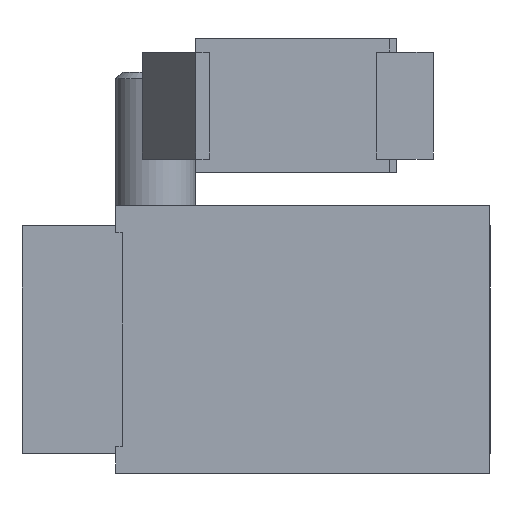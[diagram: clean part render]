
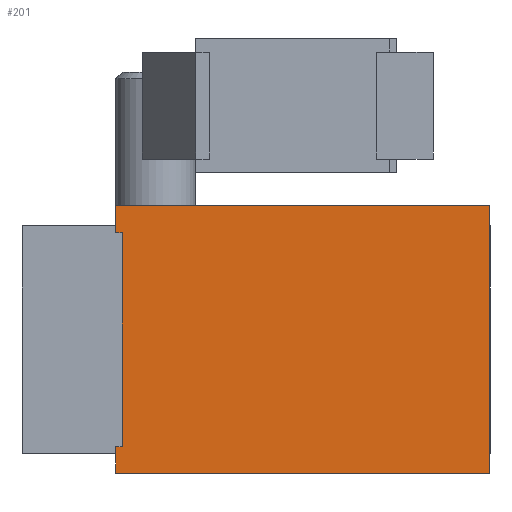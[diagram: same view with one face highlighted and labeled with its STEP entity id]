
A CAD part, left-side view. The second image highlights one B-rep face of the part: STEP entity #201.
In plain terms, the highlighted planar face has unit normal (-1, 0, 0).
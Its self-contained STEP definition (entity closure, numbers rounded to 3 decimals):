
#201 = ADVANCED_FACE( '', ( #474 ), #475, .F. );
#474 = FACE_OUTER_BOUND( '', #853, .T. );
#475 = PLANE( '', #854 );
#853 = EDGE_LOOP( '', ( #1290, #1291, #1292, #1293, #1294, #1295, #1296, #1297 ) );
#854 = AXIS2_PLACEMENT_3D( '', #1298, #1299, #1300 );
#1290 = ORIENTED_EDGE( '', *, *, #2052, .F. );
#1291 = ORIENTED_EDGE( '', *, *, #2092, .T. );
#1292 = ORIENTED_EDGE( '', *, *, #2093, .F. );
#1293 = ORIENTED_EDGE( '', *, *, #2094, .T. );
#1294 = ORIENTED_EDGE( '', *, *, #2090, .T. );
#1295 = ORIENTED_EDGE( '', *, *, #2095, .F. );
#1296 = ORIENTED_EDGE( '', *, *, #2096, .F. );
#1297 = ORIENTED_EDGE( '', *, *, #2097, .F. );
#1298 = CARTESIAN_POINT( '', ( 0., 56., -20. ) );
#1299 = DIRECTION( '', ( 1., 0., 0. ) );
#1300 = DIRECTION( '', ( 0., 0., -1. ) );
#2052 = EDGE_CURVE( '', #2409, #2411, #2412, .T. );
#2090 = EDGE_CURVE( '', #2464, #2476, #2478, .T. );
#2092 = EDGE_CURVE( '', #2409, #2480, #2481, .T. );
#2093 = EDGE_CURVE( '', #2482, #2480, #2483, .T. );
#2094 = EDGE_CURVE( '', #2482, #2464, #2484, .T. );
#2095 = EDGE_CURVE( '', #2485, #2476, #2486, .T. );
#2096 = EDGE_CURVE( '', #2487, #2485, #2488, .T. );
#2097 = EDGE_CURVE( '', #2411, #2487, #2489, .T. );
#2409 = VERTEX_POINT( '', #2909 );
#2411 = VERTEX_POINT( '', #2912 );
#2412 = LINE( '', #2913, #2914 );
#2464 = VERTEX_POINT( '', #2979 );
#2476 = VERTEX_POINT( '', #2997 );
#2478 = LINE( '', #3000, #3001 );
#2480 = VERTEX_POINT( '', #3003 );
#2481 = LINE( '', #3004, #3005 );
#2482 = VERTEX_POINT( '', #3006 );
#2483 = LINE( '', #3007, #3008 );
#2484 = LINE( '', #3009, #3010 );
#2485 = VERTEX_POINT( '', #3011 );
#2486 = LINE( '', #3012, #3013 );
#2487 = VERTEX_POINT( '', #3014 );
#2488 = LINE( '', #3015, #3016 );
#2489 = LINE( '', #3017, #3018 );
#2909 = CARTESIAN_POINT( '', ( 0., 55., -16. ) );
#2912 = CARTESIAN_POINT( '', ( 0., 55., 16. ) );
#2913 = CARTESIAN_POINT( '', ( 0., 55., -16. ) );
#2914 = VECTOR( '', #3521, 1000. );
#2979 = CARTESIAN_POINT( '', ( 0., 0., -20. ) );
#2997 = CARTESIAN_POINT( '', ( 0., 0., 20. ) );
#3000 = CARTESIAN_POINT( '', ( 0., 0., -20. ) );
#3001 = VECTOR( '', #3569, 1000. );
#3003 = CARTESIAN_POINT( '', ( 0., 56., -16. ) );
#3004 = CARTESIAN_POINT( '', ( 0., 55., -16. ) );
#3005 = VECTOR( '', #3570, 1000. );
#3006 = CARTESIAN_POINT( '', ( 0., 56., -20. ) );
#3007 = CARTESIAN_POINT( '', ( 0., 56., -20. ) );
#3008 = VECTOR( '', #3571, 1000. );
#3009 = CARTESIAN_POINT( '', ( 0., 56., -20. ) );
#3010 = VECTOR( '', #3572, 1000. );
#3011 = CARTESIAN_POINT( '', ( 0., 56., 20. ) );
#3012 = CARTESIAN_POINT( '', ( 0., 56., 20. ) );
#3013 = VECTOR( '', #3573, 1000. );
#3014 = CARTESIAN_POINT( '', ( 0., 56., 16. ) );
#3015 = CARTESIAN_POINT( '', ( 0., 56., -20. ) );
#3016 = VECTOR( '', #3574, 1000. );
#3017 = CARTESIAN_POINT( '', ( 0., 55., 16. ) );
#3018 = VECTOR( '', #3575, 1000. );
#3521 = DIRECTION( '', ( 0., 0., 1. ) );
#3569 = DIRECTION( '', ( 0., 0., 1. ) );
#3570 = DIRECTION( '', ( 0., 1., 0. ) );
#3571 = DIRECTION( '', ( 0., 0., 1. ) );
#3572 = DIRECTION( '', ( 0., -1., 0. ) );
#3573 = DIRECTION( '', ( 0., -1., 0. ) );
#3574 = DIRECTION( '', ( 0., 0., 1. ) );
#3575 = DIRECTION( '', ( 0., 1., 0. ) );
